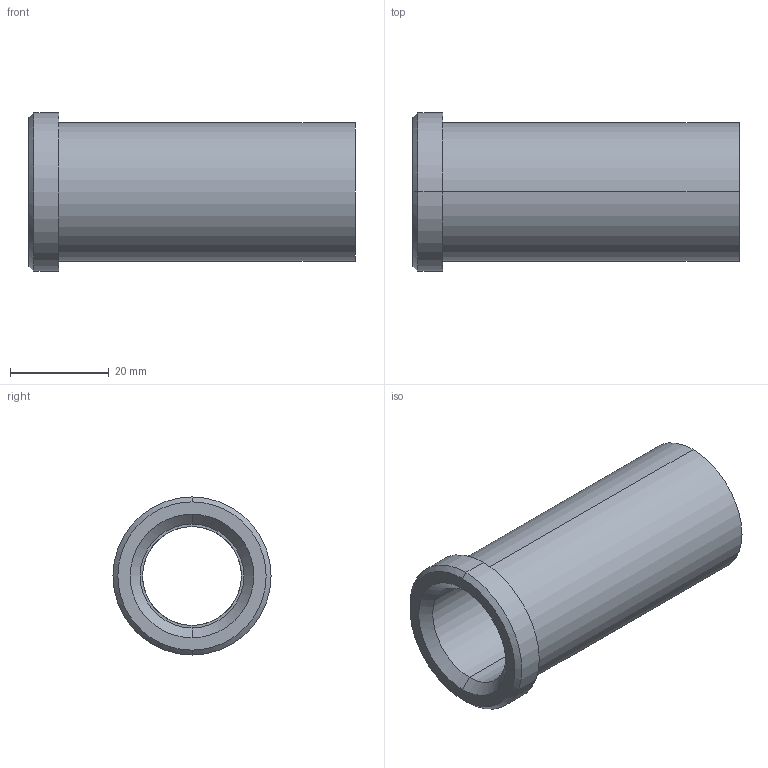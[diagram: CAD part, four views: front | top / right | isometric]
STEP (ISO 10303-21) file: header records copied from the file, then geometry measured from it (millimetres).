
FILE_DESCRIPTION(('CATIA V5 STEP Exchange'),'2;1');
FILE_NAME('C:\Users\Utente\Desktop\IO LAVORO\3D X SITO CF\X SITO\PLASTICA\353\353-20X66.stp','2021-05-08T08:55:44+00:00',('none'),('none'),'CATIA Version 5 Release 20 GA (IN-10)','CATIA V5 STEP AP203','none');
FILE_SCHEMA(('CONFIG_CONTROL_DESIGN'));
Length unit declared in the file: millimetre
Products named in the file (1): 353-20X66
Bounding box: 66 x 32 x 32 mm (x, y, z)
Volume: 19978 mm3; surface area: 10918.1 mm2
Topology: 1 solids, 1 shells, 18 faces, 58 edges, 44 vertices
Faces by surface type: cylinder 8, plane 4, cone 4, torus 2
Entity records: 840 total; most frequent: CARTESIAN_POINT 289, ORIENTED_EDGE 116, DIRECTION 82, EDGE_CURVE 58, AXIS2_PLACEMENT_3D 53, VERTEX_POINT 44, CIRCLE 34, EDGE_LOOP 22
